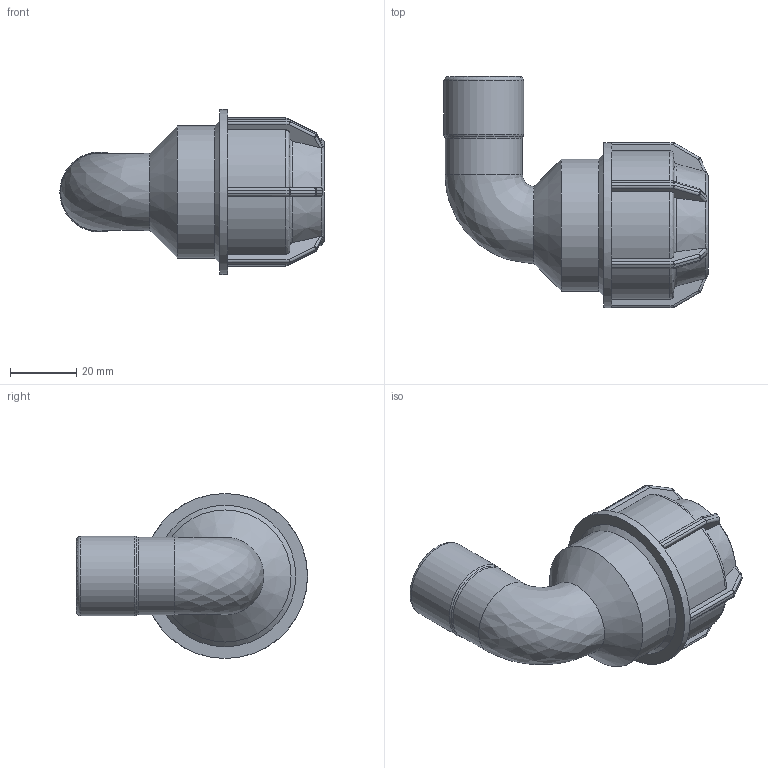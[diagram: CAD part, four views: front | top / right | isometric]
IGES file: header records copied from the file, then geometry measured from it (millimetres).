
Global section: file name: 141500025005.ipt; native system: Autodesk Inventor 2015; preprocessor: unknown; author: KIM; date: 20180409.131145; units: millimetre
Bounding box: 80.11 x 70 x 50 mm (x, y, z)
Volume: 56920.7 mm3; surface area: 20983.3 mm2
Topology: 1 solids, 1 shells, 213 faces, 515 edges, 301 vertices
Faces by surface type: plane 99, cylinder 58, revolution 24, sphere 24, cone 8
Full cylindrical faces by diameter (mm): 23.494 x1, 24.22 x1, 40 x1, 50 x1
